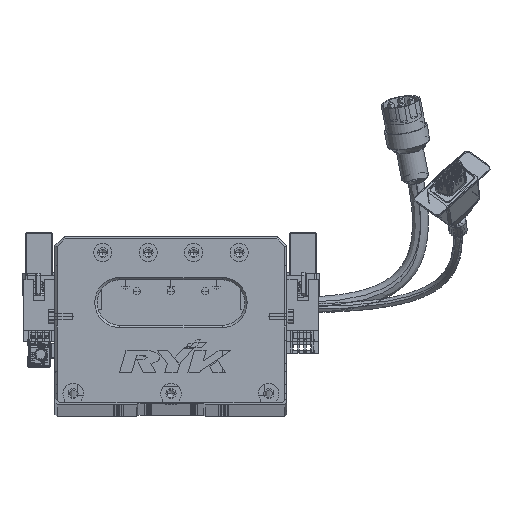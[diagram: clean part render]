
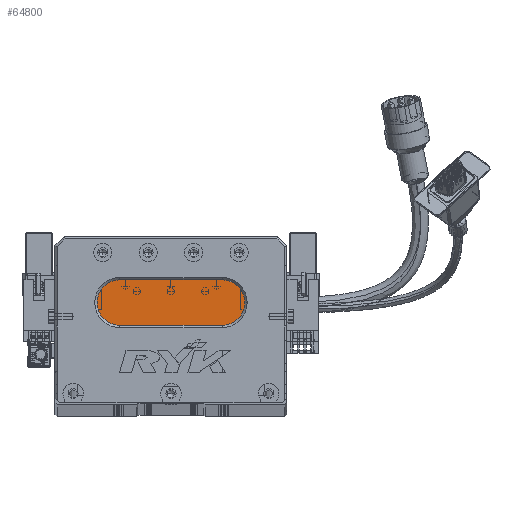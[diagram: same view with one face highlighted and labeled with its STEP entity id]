
A CAD part, top view. The second image highlights one B-rep face of the part: STEP entity #64800.
In plain terms, the highlighted planar face has unit normal (0, 0, 1) as drawn and (0, 0, -1) by its records, which use the part's own axes.
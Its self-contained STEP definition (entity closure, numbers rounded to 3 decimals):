
#5621 = CARTESIAN_POINT ( 'NONE',  ( 73.5, 54., 13. ) ) ;
#8838 = EDGE_CURVE ( 'NONE', #14295, #29035, #12738, .T. ) ;
#10764 = DIRECTION ( 'NONE',  ( -1., 0., 0. ) ) ;
#11272 = EDGE_LOOP ( 'NONE', ( #28618, #67956, #20673, #71932, #14026 ) ) ;
#12738 = LINE ( 'NONE', #40264, #39941 ) ;
#12889 = AXIS2_PLACEMENT_3D ( 'NONE', #72374, #30544, #23256 ) ;
#14026 = ORIENTED_EDGE ( 'NONE', *, *, #53649, .T. ) ;
#14295 = VERTEX_POINT ( 'NONE', #28672 ) ;
#15938 = CIRCLE ( 'NONE', #81908, 10. ) ;
#16712 = AXIS2_PLACEMENT_3D ( 'NONE', #26411, #75241, #46504 ) ;
#19269 = CARTESIAN_POINT ( 'NONE',  ( 28.5, 54., 13. ) ) ;
#20673 = ORIENTED_EDGE ( 'NONE', *, *, #74295, .T. ) ;
#21504 = LINE ( 'NONE', #60094, #54220 ) ;
#22683 = DIRECTION ( 'NONE',  ( -1., 0., 0. ) ) ;
#23256 = DIRECTION ( 'NONE',  ( -1., 0., 0. ) ) ;
#23732 = VERTEX_POINT ( 'NONE', #5621 ) ;
#26411 = CARTESIAN_POINT ( 'NONE',  ( 28.5, 44., 13. ) ) ;
#26969 = CARTESIAN_POINT ( 'NONE',  ( 28.5, 34., 13. ) ) ;
#28618 = ORIENTED_EDGE ( 'NONE', *, *, #31306, .T. ) ;
#28672 = CARTESIAN_POINT ( 'NONE',  ( 73.5, 34., 13. ) ) ;
#29035 = VERTEX_POINT ( 'NONE', #26969 ) ;
#30544 = DIRECTION ( 'NONE',  ( 0., 0., -1. ) ) ;
#31306 = EDGE_CURVE ( 'NONE', #23732, #14295, #15938, .T. ) ;
#39941 = VECTOR ( 'NONE', #75739, 1000. ) ;
#40264 = CARTESIAN_POINT ( 'NONE',  ( 73.5, 34., 13. ) ) ;
#40789 = EDGE_CURVE ( 'NONE', #66697, #79677, #87728, .T. ) ;
#43932 = DIRECTION ( 'NONE',  ( 0., 0., -1. ) ) ;
#46504 = DIRECTION ( 'NONE',  ( -1., 0., 0. ) ) ;
#46640 = DIRECTION ( 'NONE',  ( 1., 0., 0. ) ) ;
#53649 = EDGE_CURVE ( 'NONE', #79677, #23732, #21504, .T. ) ;
#54220 = VECTOR ( 'NONE', #46640, 1000. ) ;
#60094 = CARTESIAN_POINT ( 'NONE',  ( 73.5, 54., 13. ) ) ;
#64800 = ADVANCED_FACE ( 'NONE', ( #89301 ), #65328, .T. ) ;
#65328 = PLANE ( 'NONE',  #12889 ) ;
#66697 = VERTEX_POINT ( 'NONE', #73594 ) ;
#67956 = ORIENTED_EDGE ( 'NONE', *, *, #8838, .T. ) ;
#71932 = ORIENTED_EDGE ( 'NONE', *, *, #40789, .T. ) ;
#72374 = CARTESIAN_POINT ( 'NONE',  ( 73.5, 44., 13. ) ) ;
#73594 = CARTESIAN_POINT ( 'NONE',  ( 18.5, 44., 13. ) ) ;
#73816 = CIRCLE ( 'NONE', #16712, 10. ) ;
#74295 = EDGE_CURVE ( 'NONE', #29035, #66697, #73816, .T. ) ;
#75241 = DIRECTION ( 'NONE',  ( 0., 0., -1. ) ) ;
#75739 = DIRECTION ( 'NONE',  ( -1., 0., 0. ) ) ;
#78856 = CARTESIAN_POINT ( 'NONE',  ( 28.5, 44., 13. ) ) ;
#79677 = VERTEX_POINT ( 'NONE', #19269 ) ;
#81908 = AXIS2_PLACEMENT_3D ( 'NONE', #85781, #43932, #10764 ) ;
#85781 = CARTESIAN_POINT ( 'NONE',  ( 73.5, 44., 13. ) ) ;
#85841 = DIRECTION ( 'NONE',  ( 0., 0., -1. ) ) ;
#87728 = CIRCLE ( 'NONE', #89017, 10. ) ;
#89017 = AXIS2_PLACEMENT_3D ( 'NONE', #78856, #85841, #22683 ) ;
#89301 = FACE_OUTER_BOUND ( 'NONE', #11272, .T. ) ;
